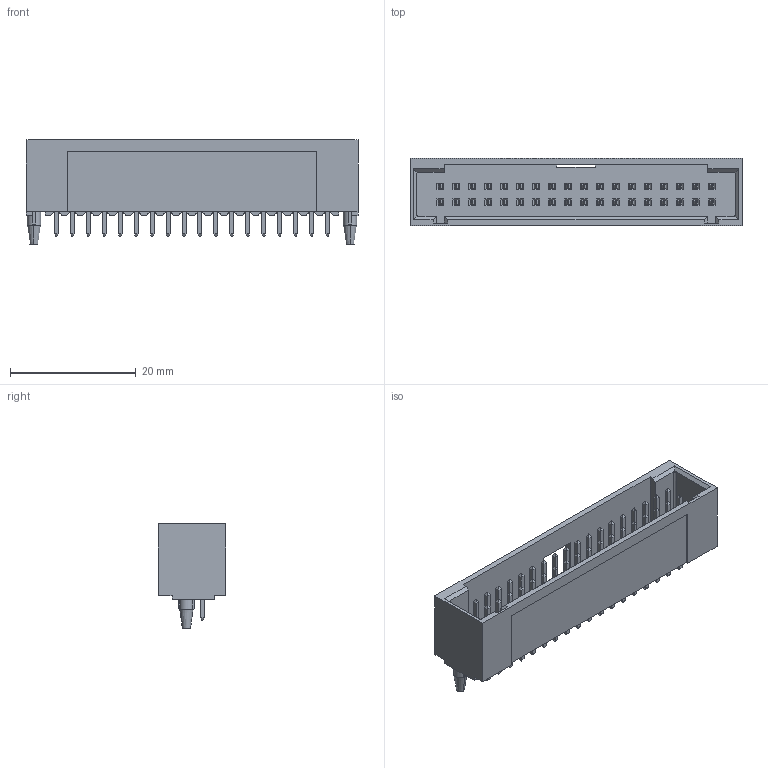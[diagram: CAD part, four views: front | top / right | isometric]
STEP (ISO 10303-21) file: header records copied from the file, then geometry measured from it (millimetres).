
FILE_DESCRIPTION((''),'2;1');
FILE_NAME('015477636','2016-10-24T',('gsharma'),(''),'PRO/ENGINEER BY PARAMETRIC TECHNOLOGY CORPORATION, 2012310','PRO/ENGINEER BY PARAMETRIC TECHNOLOGY CORPORATION, 2012310','');
FILE_SCHEMA(('CONFIG_CONTROL_DESIGN'));
Length unit declared in the file: inch
Products named in the file (1): 015477636
Bounding box: 52.83 x 10.67 x 16.64 mm (x, y, z)
Volume: 2854.4 mm3; surface area: 4893.5 mm2
Topology: 1 solids, 1 shells, 1125 faces, 2620 edges, 1624 vertices
Faces by surface type: plane 1090, cylinder 27, cone 8
Entity records: 30863 total; most frequent: CARTESIAN_POINT 5360, ORIENTED_EDGE 5082, DIRECTION 4994, EDGE_CURVE 2541, VECTOR 2458, LINE 2458, VERTEX_POINT 1542, AXIS2_PLACEMENT_3D 1268
